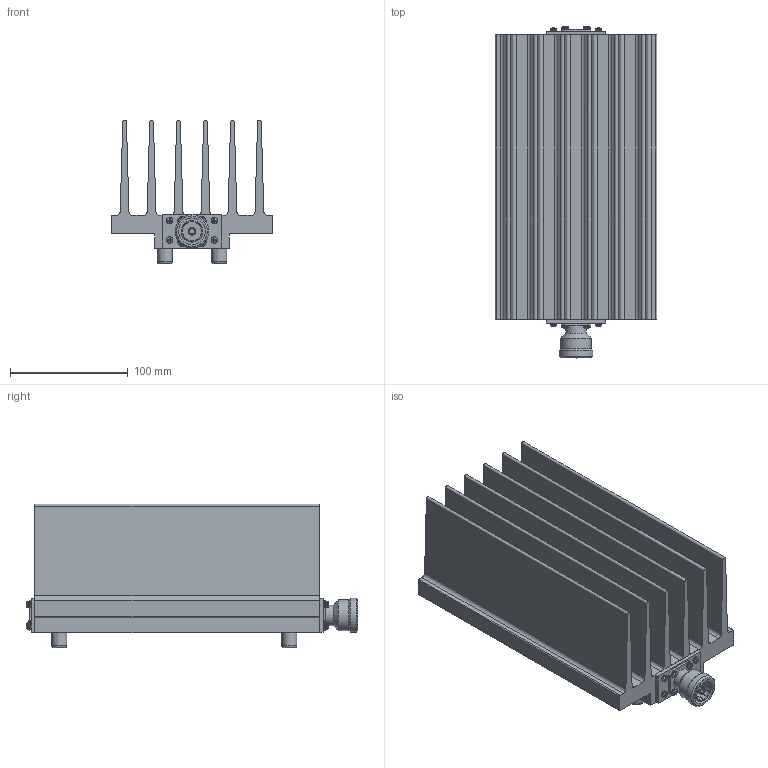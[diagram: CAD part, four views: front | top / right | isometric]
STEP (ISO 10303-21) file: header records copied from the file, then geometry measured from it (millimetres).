
FILE_DESCRIPTION(/* description */ ('CAx-IF Rec.Pracs.---Representation and Presentation of Product Manufacturing Information (PMI)---4.0---2014-10-13','CAx-IF Rec.Pracs.---3D Tessellated Geometry---0.4---2014-09-14','2;1'),/* implementation_level */ '2;1');
FILE_NAME(/* name */ '500-WT-FE',/* time_stamp */ '2019-10-24T12:53:43-04:00',/* author */ ('T.SMITH'),/* organization */ ('Bird Technologies'),/* preprocessor_version */ 'ST-DEVELOPER v16.7',/* originating_system */ 'DEX',/* authorisation */ $);
FILE_SCHEMA (('AP242_MANAGED_MODEL_BASED_3D_ENGINEERING_MIM_LF { 1 0 10303 442 1 1 4 }'));
Length unit declared in the file: inch
Products named in the file (1): 500-WT-FE
Bounding box: 136.91 x 281.41 x 121.67 mm (x, y, z)
Volume: 1215377.8 mm3; surface area: 354043.4 mm2
Topology: 1 solids, 33 shells, 1137 faces, 2817 edges, 1843 vertices
Faces by surface type: plane 722, cylinder 236, torus 82, cone 81, sphere 16
Full cylindrical faces by diameter (mm): 2.156 x52, 2.413 x1, 2.845 x30, 3.048 x1, 3.175 x26, 3.967 x8, 4.572 x1, 4.648 x10, 4.75 x10, 5.563 x16, 6.477 x1, 9.423 x2, 10.414 x1, 12.7 x4, 16.078 x1, 17.399 x1, 18.415 x1, 22.606 x1, 26.035 x1, 28.575 x1
Entity records: 40067 total; most frequent: CARTESIAN_POINT 5990, DIRECTION 5596, ORIENTED_EDGE 4964, EDGE_CURVE 2482, AXIS2_PLACEMENT_3D 2178, VERTEX_POINT 1750, FACE_BOUND 1528, EDGE_LOOP 1518
